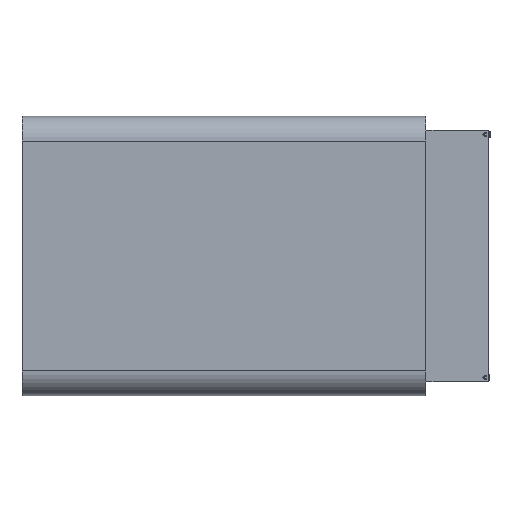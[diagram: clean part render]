
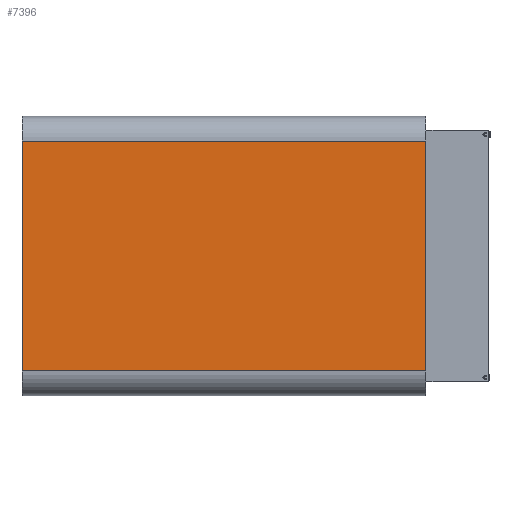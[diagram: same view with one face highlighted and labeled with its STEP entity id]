
A CAD part, left-side view. The second image highlights one B-rep face of the part: STEP entity #7396.
In plain terms, the highlighted planar face has unit normal (-1, 0, 0).
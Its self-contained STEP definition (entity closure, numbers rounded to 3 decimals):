
#79 = CARTESIAN_POINT ( 'NONE',  ( -747.5, 650., -185. ) ) ;
#124 = ORIENTED_EDGE ( 'NONE', *, *, #7293, .T. ) ;
#192 = PLANE ( 'NONE',  #6050 ) ;
#247 = DIRECTION ( 'NONE',  ( 0., 0., 1. ) ) ;
#279 = CARTESIAN_POINT ( 'NONE',  ( -747.5, 650., 185. ) ) ;
#287 = ORIENTED_EDGE ( 'NONE', *, *, #2245, .T. ) ;
#781 = ORIENTED_EDGE ( 'NONE', *, *, #3001, .F. ) ;
#816 = CARTESIAN_POINT ( 'NONE',  ( -747.5, 650., 185. ) ) ;
#1306 = LINE ( 'NONE', #279, #3372 ) ;
#2028 = DIRECTION ( 'NONE',  ( 0., 0., -1. ) ) ;
#2245 = EDGE_CURVE ( 'NONE', #7167, #4636, #6926, .T. ) ;
#2440 = CARTESIAN_POINT ( 'NONE',  ( -747.5, 650., -185. ) ) ;
#2527 = CARTESIAN_POINT ( 'NONE',  ( -747.5, 650., -225. ) ) ;
#2581 = LINE ( 'NONE', #7248, #5881 ) ;
#3001 = EDGE_CURVE ( 'NONE', #3939, #3412, #2581, .T. ) ;
#3056 = LINE ( 'NONE', #2440, #3565 ) ;
#3372 = VECTOR ( 'NONE', #5552, 1000. ) ;
#3412 = VERTEX_POINT ( 'NONE', #816 ) ;
#3565 = VECTOR ( 'NONE', #4774, 1000. ) ;
#3664 = CARTESIAN_POINT ( 'NONE',  ( -747.5, 0., 185. ) ) ;
#3830 = CARTESIAN_POINT ( 'NONE',  ( -747.5, 0., -225. ) ) ;
#3939 = VERTEX_POINT ( 'NONE', #79 ) ;
#4245 = FACE_OUTER_BOUND ( 'NONE', #7032, .T. ) ;
#4636 = VERTEX_POINT ( 'NONE', #3664 ) ;
#4774 = DIRECTION ( 'NONE',  ( 0., -1., 0. ) ) ;
#5473 = DIRECTION ( 'NONE',  ( 1., 0., 0. ) ) ;
#5552 = DIRECTION ( 'NONE',  ( 0., 1., 0. ) ) ;
#5881 = VECTOR ( 'NONE', #247, 1000. ) ;
#5946 = EDGE_CURVE ( 'NONE', #3939, #7167, #3056, .T. ) ;
#6050 = AXIS2_PLACEMENT_3D ( 'NONE', #2527, #5473, #2028 ) ;
#6161 = DIRECTION ( 'NONE',  ( 0., 0., 1. ) ) ;
#6406 = ORIENTED_EDGE ( 'NONE', *, *, #5946, .T. ) ;
#6926 = LINE ( 'NONE', #3830, #7086 ) ;
#6963 = CARTESIAN_POINT ( 'NONE',  ( -747.5, 0., -185. ) ) ;
#7032 = EDGE_LOOP ( 'NONE', ( #287, #124, #781, #6406 ) ) ;
#7086 = VECTOR ( 'NONE', #6161, 1000. ) ;
#7167 = VERTEX_POINT ( 'NONE', #6963 ) ;
#7248 = CARTESIAN_POINT ( 'NONE',  ( -747.5, 650., -225. ) ) ;
#7293 = EDGE_CURVE ( 'NONE', #4636, #3412, #1306, .T. ) ;
#7396 = ADVANCED_FACE ( 'NONE', ( #4245 ), #192, .F. ) ;
